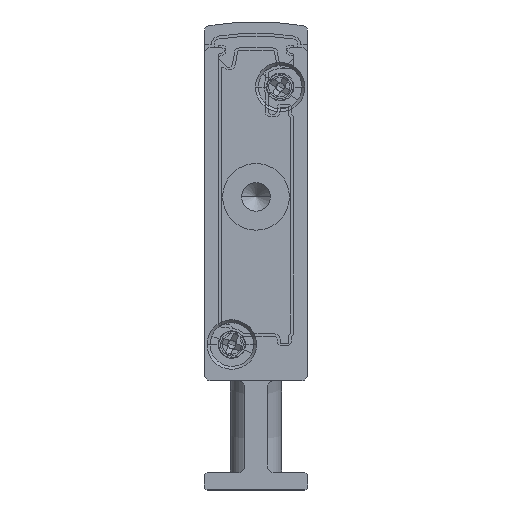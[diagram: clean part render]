
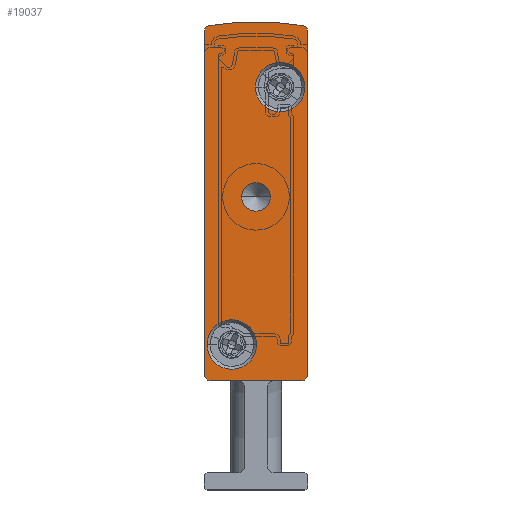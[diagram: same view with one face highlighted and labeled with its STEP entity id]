
A CAD part, front view. The second image highlights one B-rep face of the part: STEP entity #19037.
In plain terms, the highlighted planar face has unit normal (0, -1, 0).
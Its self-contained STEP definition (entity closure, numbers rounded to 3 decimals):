
#234 = ORIENTED_EDGE ( 'NONE', *, *, #11995, .F. ) ;
#308 = CIRCLE ( 'NONE', #15451, 0.5 ) ;
#597 = AXIS2_PLACEMENT_3D ( 'NONE', #18423, #12262, #16950 ) ;
#743 = CIRCLE ( 'NONE', #10898, 2.15 ) ;
#1342 = ORIENTED_EDGE ( 'NONE', *, *, #5730, .F. ) ;
#1451 = AXIS2_PLACEMENT_3D ( 'NONE', #11013, #2072, #14196 ) ;
#1512 = EDGE_LOOP ( 'NONE', ( #234, #18567 ) ) ;
#1688 = DIRECTION ( 'NONE',  ( -1., 0., 0. ) ) ;
#1806 = LINE ( 'NONE', #5412, #3462 ) ;
#1906 = DIRECTION ( 'NONE',  ( 0., 1., 0. ) ) ;
#1942 = CARTESIAN_POINT ( 'NONE',  ( 5.75, -2.5, 25.5 ) ) ;
#2072 = DIRECTION ( 'NONE',  ( 0., -1., 0. ) ) ;
#2212 = LINE ( 'NONE', #13006, #12183 ) ;
#2416 = DIRECTION ( 'NONE',  ( 0., -1., 0. ) ) ;
#2444 = VERTEX_POINT ( 'NONE', #5527 ) ;
#2520 = VERTEX_POINT ( 'NONE', #8983 ) ;
#2536 = CARTESIAN_POINT ( 'NONE',  ( 4.5, -2.5, 25.5 ) ) ;
#2842 = DIRECTION ( 'NONE',  ( -1., 0., 0. ) ) ;
#3041 = CIRCLE ( 'NONE', #17483, 23.658 ) ;
#3101 = DIRECTION ( 'NONE',  ( 0., 1., 0. ) ) ;
#3372 = FACE_BOUND ( 'NONE', #6166, .T. ) ;
#3389 = EDGE_LOOP ( 'NONE', ( #11804, #5275 ) ) ;
#3462 = VECTOR ( 'NONE', #5236, 1000. ) ;
#3482 = CARTESIAN_POINT ( 'NONE',  ( 0.5, -2.5, 10. ) ) ;
#3533 = CIRCLE ( 'NONE', #8113, 1.25 ) ;
#3651 = CARTESIAN_POINT ( 'NONE',  ( 3.25, -2.5, 25.5 ) ) ;
#3700 = CARTESIAN_POINT ( 'NONE',  ( 8.592, -2.5, 40.393 ) ) ;
#3923 = CARTESIAN_POINT ( 'NONE',  ( 4.45, -2.5, 35.05 ) ) ;
#4193 = VERTEX_POINT ( 'NONE', #9134 ) ;
#4261 = VERTEX_POINT ( 'NONE', #7283 ) ;
#4799 = AXIS2_PLACEMENT_3D ( 'NONE', #2536, #12077, #17758 ) ;
#4932 = EDGE_CURVE ( 'NONE', #15109, #4193, #7060, .T. ) ;
#5096 = EDGE_CURVE ( 'NONE', #15545, #2444, #14954, .T. ) ;
#5126 = EDGE_CURVE ( 'NONE', #5562, #6517, #743, .T. ) ;
#5236 = DIRECTION ( 'NONE',  ( -1., 0., 0. ) ) ;
#5275 = ORIENTED_EDGE ( 'NONE', *, *, #12309, .T. ) ;
#5349 = EDGE_CURVE ( 'NONE', #19125, #15967, #15180, .T. ) ;
#5412 = CARTESIAN_POINT ( 'NONE',  ( 0.5, -2.5, 9.5 ) ) ;
#5450 = FACE_BOUND ( 'NONE', #1512, .T. ) ;
#5510 = CARTESIAN_POINT ( 'NONE',  ( 4.55, -2.5, 12.65 ) ) ;
#5527 = CARTESIAN_POINT ( 'NONE',  ( 0.408, -2.5, 40.393 ) ) ;
#5562 = VERTEX_POINT ( 'NONE', #3923 ) ;
#5730 = EDGE_CURVE ( 'NONE', #15332, #15545, #8911, .T. ) ;
#5891 = DIRECTION ( 'NONE',  ( 0., 0., 1. ) ) ;
#5982 = DIRECTION ( 'NONE',  ( 0., -1., 0. ) ) ;
#6166 = EDGE_LOOP ( 'NONE', ( #6504, #19185 ) ) ;
#6504 = ORIENTED_EDGE ( 'NONE', *, *, #18908, .F. ) ;
#6517 = VERTEX_POINT ( 'NONE', #11178 ) ;
#6656 = ORIENTED_EDGE ( 'NONE', *, *, #5096, .F. ) ;
#6781 = CIRCLE ( 'NONE', #1451, 2.15 ) ;
#6956 = EDGE_CURVE ( 'NONE', #13795, #2520, #12791, .T. ) ;
#7060 = CIRCLE ( 'NONE', #7650, 0.5 ) ;
#7283 = CARTESIAN_POINT ( 'NONE',  ( 0.5, -2.5, 9.5 ) ) ;
#7650 = AXIS2_PLACEMENT_3D ( 'NONE', #13877, #10888, #9746 ) ;
#7846 = CARTESIAN_POINT ( 'NONE',  ( 0.5, -2.5, 39.902 ) ) ;
#8113 = AXIS2_PLACEMENT_3D ( 'NONE', #16979, #9216, #1688 ) ;
#8327 = CARTESIAN_POINT ( 'NONE',  ( 2.4, -2.5, 12.65 ) ) ;
#8612 = ORIENTED_EDGE ( 'NONE', *, *, #15125, .F. ) ;
#8911 = LINE ( 'NONE', #11982, #14889 ) ;
#8983 = CARTESIAN_POINT ( 'NONE',  ( 8.5, -2.5, 9.5 ) ) ;
#9134 = CARTESIAN_POINT ( 'NONE',  ( 9., -2.5, 39.902 ) ) ;
#9158 = VERTEX_POINT ( 'NONE', #5510 ) ;
#9216 = DIRECTION ( 'NONE',  ( 0., 1., 0. ) ) ;
#9683 = DIRECTION ( 'NONE',  ( -1., 0., 0. ) ) ;
#9746 = DIRECTION ( 'NONE',  ( -1., 0., 0. ) ) ;
#9870 = CARTESIAN_POINT ( 'NONE',  ( 4.5, -2.5, 17.092 ) ) ;
#9975 = CARTESIAN_POINT ( 'NONE',  ( 0.25, -2.5, 12.65 ) ) ;
#10186 = ORIENTED_EDGE ( 'NONE', *, *, #14679, .F. ) ;
#10474 = FACE_OUTER_BOUND ( 'NONE', #18997, .T. ) ;
#10700 = EDGE_CURVE ( 'NONE', #14268, #9158, #6781, .T. ) ;
#10723 = CIRCLE ( 'NONE', #597, 2.15 ) ;
#10768 = CARTESIAN_POINT ( 'NONE',  ( 0., -2.5, 10. ) ) ;
#10820 = EDGE_CURVE ( 'NONE', #2444, #15109, #3041, .T. ) ;
#10855 = ORIENTED_EDGE ( 'NONE', *, *, #4932, .F. ) ;
#10888 = DIRECTION ( 'NONE',  ( 0., 1., 0. ) ) ;
#10898 = AXIS2_PLACEMENT_3D ( 'NONE', #12185, #5982, #16659 ) ;
#11013 = CARTESIAN_POINT ( 'NONE',  ( 2.4, -2.5, 12.65 ) ) ;
#11178 = CARTESIAN_POINT ( 'NONE',  ( 8.75, -2.5, 35.05 ) ) ;
#11330 = DIRECTION ( 'NONE',  ( -1., 0., 0. ) ) ;
#11804 = ORIENTED_EDGE ( 'NONE', *, *, #5349, .T. ) ;
#11982 = CARTESIAN_POINT ( 'NONE',  ( 0., -2.5, 39.902 ) ) ;
#11995 = EDGE_CURVE ( 'NONE', #9158, #14268, #19023, .T. ) ;
#12077 = DIRECTION ( 'NONE',  ( 0., 1., 0. ) ) ;
#12183 = VECTOR ( 'NONE', #15907, 1000. ) ;
#12185 = CARTESIAN_POINT ( 'NONE',  ( 6.6, -2.5, 35.05 ) ) ;
#12226 = ORIENTED_EDGE ( 'NONE', *, *, #6956, .F. ) ;
#12260 = CARTESIAN_POINT ( 'NONE',  ( 9., -2.5, 10. ) ) ;
#12262 = DIRECTION ( 'NONE',  ( 0., -1., 0. ) ) ;
#12309 = EDGE_CURVE ( 'NONE', #15967, #19125, #3533, .T. ) ;
#12427 = ORIENTED_EDGE ( 'NONE', *, *, #12818, .F. ) ;
#12791 = CIRCLE ( 'NONE', #14410, 0.5 ) ;
#12818 = EDGE_CURVE ( 'NONE', #4261, #15332, #308, .T. ) ;
#12828 = AXIS2_PLACEMENT_3D ( 'NONE', #8327, #2416, #17918 ) ;
#13006 = CARTESIAN_POINT ( 'NONE',  ( 9., -2.5, 39.902 ) ) ;
#13223 = CARTESIAN_POINT ( 'NONE',  ( 0.5, -2.5, 39.902 ) ) ;
#13700 = DIRECTION ( 'NONE',  ( -1., 0., 0. ) ) ;
#13795 = VERTEX_POINT ( 'NONE', #12260 ) ;
#13877 = CARTESIAN_POINT ( 'NONE',  ( 8.5, -2.5, 39.902 ) ) ;
#14196 = DIRECTION ( 'NONE',  ( 1., 0., 0. ) ) ;
#14268 = VERTEX_POINT ( 'NONE', #9975 ) ;
#14410 = AXIS2_PLACEMENT_3D ( 'NONE', #15123, #3101, #13700 ) ;
#14679 = EDGE_CURVE ( 'NONE', #2520, #4261, #1806, .T. ) ;
#14889 = VECTOR ( 'NONE', #5891, 1000. ) ;
#14954 = CIRCLE ( 'NONE', #19095, 0.5 ) ;
#15109 = VERTEX_POINT ( 'NONE', #3700 ) ;
#15123 = CARTESIAN_POINT ( 'NONE',  ( 8.5, -2.5, 10. ) ) ;
#15125 = EDGE_CURVE ( 'NONE', #4193, #13795, #2212, .T. ) ;
#15180 = CIRCLE ( 'NONE', #4799, 1.25 ) ;
#15332 = VERTEX_POINT ( 'NONE', #10768 ) ;
#15451 = AXIS2_PLACEMENT_3D ( 'NONE', #3482, #15566, #9683 ) ;
#15545 = VERTEX_POINT ( 'NONE', #15961 ) ;
#15562 = ORIENTED_EDGE ( 'NONE', *, *, #10820, .F. ) ;
#15566 = DIRECTION ( 'NONE',  ( 0., 1., 0. ) ) ;
#15579 = DIRECTION ( 'NONE',  ( -1., 0., 0. ) ) ;
#15785 = DIRECTION ( 'NONE',  ( 0., 1., 0. ) ) ;
#15907 = DIRECTION ( 'NONE',  ( 0., 0., -1. ) ) ;
#15961 = CARTESIAN_POINT ( 'NONE',  ( 0., -2.5, 39.902 ) ) ;
#15967 = VERTEX_POINT ( 'NONE', #1942 ) ;
#16659 = DIRECTION ( 'NONE',  ( 1., 0., 0. ) ) ;
#16950 = DIRECTION ( 'NONE',  ( 1., 0., 0. ) ) ;
#16979 = CARTESIAN_POINT ( 'NONE',  ( 4.5, -2.5, 25.5 ) ) ;
#17351 = AXIS2_PLACEMENT_3D ( 'NONE', #7846, #15785, #2842 ) ;
#17483 = AXIS2_PLACEMENT_3D ( 'NONE', #9870, #18962, #11330 ) ;
#17758 = DIRECTION ( 'NONE',  ( -1., 0., 0. ) ) ;
#17918 = DIRECTION ( 'NONE',  ( 1., 0., 0. ) ) ;
#18423 = CARTESIAN_POINT ( 'NONE',  ( 6.6, -2.5, 35.05 ) ) ;
#18567 = ORIENTED_EDGE ( 'NONE', *, *, #10700, .F. ) ;
#18908 = EDGE_CURVE ( 'NONE', #6517, #5562, #10723, .T. ) ;
#18938 = PLANE ( 'NONE',  #17351 ) ;
#18962 = DIRECTION ( 'NONE',  ( 0., 1., 0. ) ) ;
#18997 = EDGE_LOOP ( 'NONE', ( #6656, #1342, #12427, #10186, #12226, #8612, #10855, #15562 ) ) ;
#19023 = CIRCLE ( 'NONE', #12828, 2.15 ) ;
#19037 = ADVANCED_FACE ( 'NONE', ( #3372, #5450, #10474, #19314 ), #18938, .F. ) ;
#19095 = AXIS2_PLACEMENT_3D ( 'NONE', #13223, #1906, #15579 ) ;
#19125 = VERTEX_POINT ( 'NONE', #3651 ) ;
#19185 = ORIENTED_EDGE ( 'NONE', *, *, #5126, .F. ) ;
#19314 = FACE_BOUND ( 'NONE', #3389, .T. ) ;
